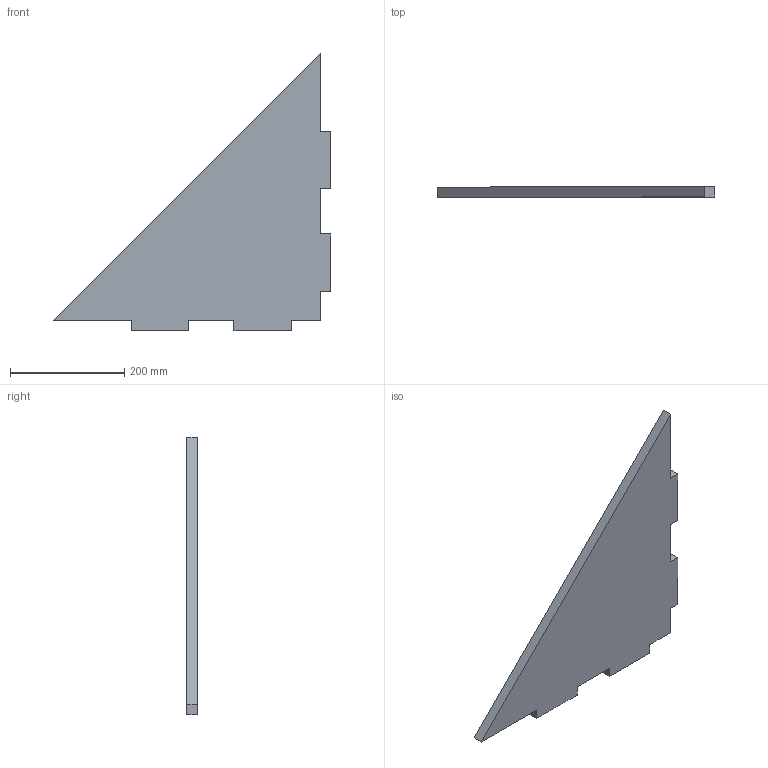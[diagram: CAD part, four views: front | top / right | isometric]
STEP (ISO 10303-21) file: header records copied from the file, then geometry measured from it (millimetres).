
FILE_DESCRIPTION(('Open CASCADE Model'),'2;1');
FILE_NAME('Open CASCADE Shape Model','2026-09-24T15:34:07',('Author'),( 'Open CASCADE'),'Open CASCADE STEP processor 7.9','Open CASCADE 7.9' ,'Unknown');
FILE_SCHEMA(('AUTOMOTIVE_DESIGN { 1 0 10303 214 1 1 1 1 }'));
Length unit declared in the file: millimetre
Products named in the file (1): Open CASCADE STEP translator 7.9 6
Bounding box: 487.27 x 18 x 487.27 mm (x, y, z)
Volume: 2111546.5 mm3; surface area: 266047.8 mm2
Topology: 1 solids, 1 shells, 21 faces, 57 edges, 38 vertices
Faces by surface type: plane 21
Entity records: 1402 total; most frequent: CARTESIAN_POINT 231, DIRECTION 215, LINE 171, VECTOR 171, ORIENTED_EDGE 114, PCURVE 114, DEFINITIONAL_REPRESENTATION 114, EDGE_CURVE 57
